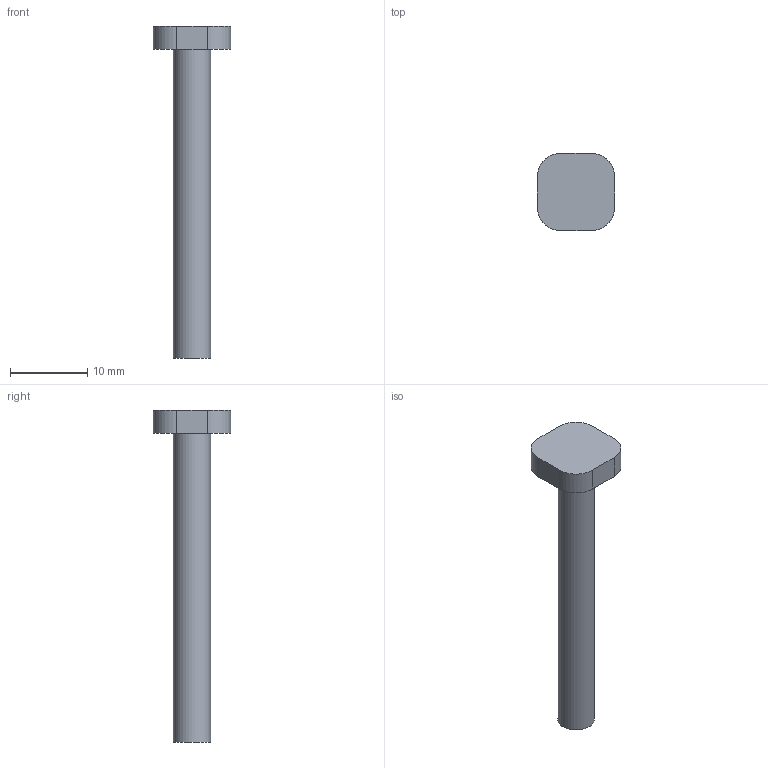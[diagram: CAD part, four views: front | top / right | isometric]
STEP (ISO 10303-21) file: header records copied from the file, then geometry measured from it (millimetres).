
FILE_DESCRIPTION(('Open CASCADE Model'),'2;1');
FILE_NAME('Open CASCADE Shape Model','2026-09-13T15:24:55',('Author'),( 'Open CASCADE'),'Open CASCADE STEP processor 7.9','build123d', 'Unknown');
FILE_SCHEMA(('AUTOMOTIVE_DESIGN { 1 0 10303 214 1 1 1 1 }'));
Length unit declared in the file: millimetre
Products named in the file (2): =>[0:1:1:2]; COMPOUND
Assembly tree (1 placements, depth 2):
  =>[0:1:1:2]
    COMPOUND
Bounding box: 10 x 10 x 43 mm (x, y, z)
Volume: 1000.6 mm3; surface area: 892.3 mm2
Topology: 1 solids, 1 shells, 12 faces, 27 edges, 18 vertices
Faces by surface type: plane 7, cylinder 5
Full cylindrical faces by diameter (mm): 4.8 x1
Entity records: 720 total; most frequent: DIRECTION 119, CARTESIAN_POINT 113, LINE 61, VECTOR 61, ORIENTED_EDGE 54, PCURVE 54, DEFINITIONAL_REPRESENTATION 54, EDGE_CURVE 27
